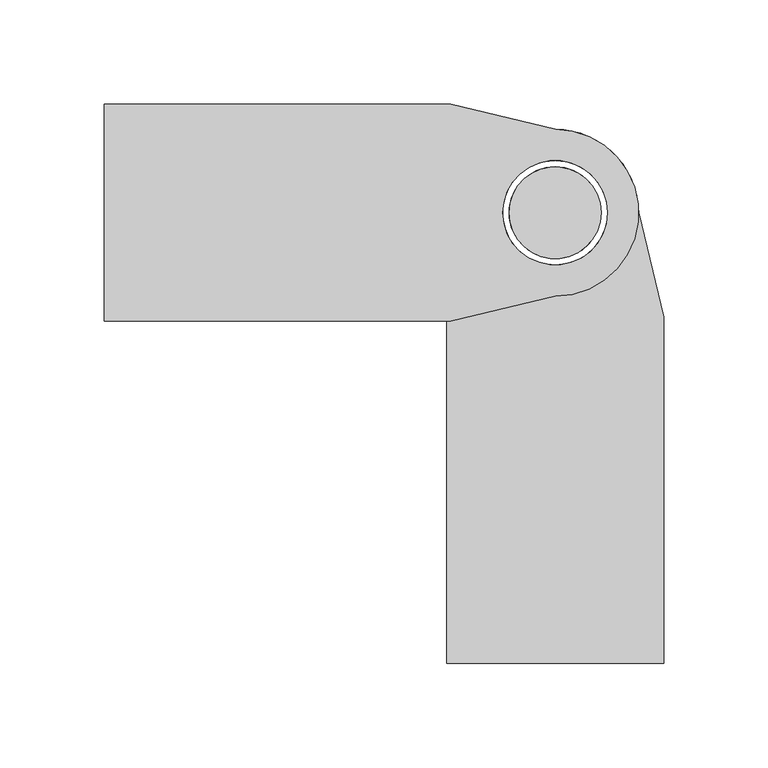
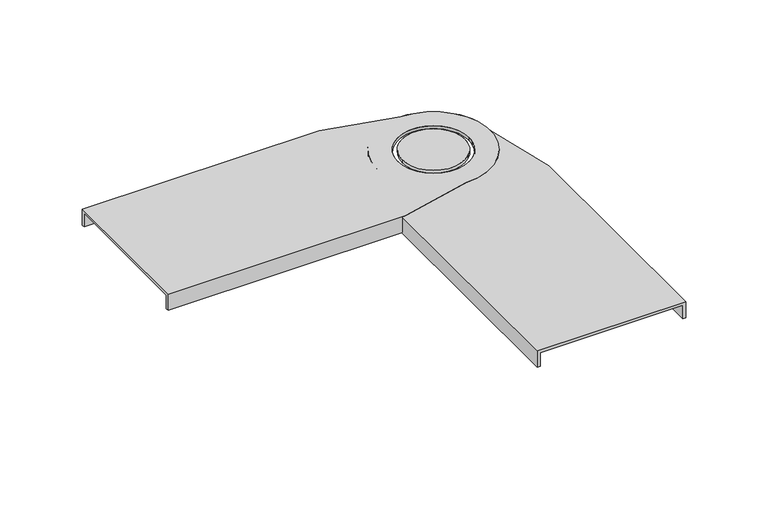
"""IFC4 building model written with IfcOpenShell, lengths in millimetres: cable carrier fitting geometry, BAKS_LDLS_BEND_Articulated connector_LGSU : LGSUC_H100."""

from ifc_helpers import new_model, si_unit, frame, origin, place, context, project, spatial, polyline, circle_curve, source, transform, mapped, element, save
from ifc_brep_helpers import plane_surface, cylinder_surface, revolved_surface, advanced_brep


def cable_carrier_fitting_3ae1bb04(model_context):
    return source(origin(), model_context, "Body", "AdvancedBrep", [
        advanced_brep(
        [(-216.0, -52.0, 2.0), (-50.0, -52.0, 2.0), (0.0, -40.0, 2.0), (0.0, 40.0, 2.0), (-50.0, 52.0, 2.0), (-216.0, 52.0, 2.0), (25.0, 0.0, 2.0), (-25.0, 0.0, 2.0), (-50.0, 52.0, 0.0), (0.0, 40.0, 0.0), (0.0, -40.0, 0.0), (-50.0, -52.0, 0.0), (-50.0, -50.0, 0.0), (-216.0, -50.0, 0.0), (-216.0, 50.0, 0.0), (-50.0, 50.0, 0.0), (-25.0, 0.0, 0.0), (25.0, 0.0, 0.0), (-216.0, -52.0, -10.0), (-50.0, -52.0, -10.0), (-50.0, 52.0, -10.0), (-216.0, 52.0, -10.0), (-216.0, 50.0, -10.0), (-216.0, -50.0, -10.0), (-50.0, 50.0, -10.0), (-50.0, -50.0, -10.0)],
        [
            (0, 1),
            (1, 2),
            (2, 3, circle_curve(frame((0.0, 0.0, 2.0), z_axis=(0.0, 0.0, 1.0), x_axis=(-1.0, 0.0, 0.0)), 40.0)),
            (3, 4),
            (4, 5),
            (5, 0),
            (6, 7, circle_curve(frame((0.0, 0.0, 2.0), z_axis=(0.0, 0.0, -1.0), x_axis=(-1.0, 0.0, 0.0)), 25.0)),
            (7, 6, circle_curve(frame((0.0, 0.0, 2.0), z_axis=(0.0, 0.0, -1.0), x_axis=(-1.0, 0.0, 0.0)), 25.0)),
            (8, 9),
            (9, 10, circle_curve(frame((0.0, 0.0, 0.0), z_axis=(0.0, 0.0, -1.0), x_axis=(-1.0, 0.0, 0.0)), 40.0)),
            (10, 11),
            (11, 12),
            (12, 13),
            (13, 14),
            (14, 15),
            (15, 8),
            (16, 17, circle_curve(frame((0.0, 0.0, 0.0), z_axis=(0.0, 0.0, 1.0), x_axis=(-1.0, 0.0, 0.0)), 25.0)),
            (17, 16, circle_curve(frame((0.0, 0.0, 0.0), z_axis=(0.0, 0.0, 1.0), x_axis=(-1.0, 0.0, 0.0)), 25.0)),
            (0, 18),
            (18, 19),
            (19, 11),
            (11, 1),
            (4, 8),
            (8, 20),
            (20, 21),
            (21, 5),
            (21, 22),
            (22, 14),
            (13, 23),
            (23, 18),
            (6, 17),
            (16, 7),
            (10, 2),
            (9, 3),
            (20, 24),
            (24, 22),
            (24, 15),
            (23, 25),
            (25, 19),
            (25, 12),
        ],
        [
            plane_surface(frame((-50.0, -52.0, 2.0), z_axis=(0.0, 0.0, 1.0), x_axis=(1.0, 0.0, 0.0))),
            plane_surface(frame((-50.0, -52.0, 0.0), z_axis=(0.0, 0.0, -1.0), x_axis=(-1.0, 0.0, 0.0))),
            plane_surface(frame((-216.0, -52.0, 2.0), z_axis=(0.0, -1.0, 0.0), x_axis=(0.0, 0.0, -1.0))),
            plane_surface(frame((-50.0, 52.0, 2.0), z_axis=(0.0, 1.0, 0.0), x_axis=(0.0, 0.0, -1.0))),
            plane_surface(frame((-216.0, 52.0, 2.0), z_axis=(-1.0, 0.0, 0.0), x_axis=(0.0, 0.0, -1.0))),
            revolved_surface(polyline([(-25.0, 0.0, 2.0), (-25.0, 0.0, 0.0)]), (0.0, 0.0, 0.0), (0.0, 0.0, 1.0)),
            plane_surface(frame((-50.0, -52.0, 2.0), z_axis=(0.23337295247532, -0.9723873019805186, 0.0), x_axis=(0.0, 0.0, -1.0))),
            cylinder_surface(frame((0.0, 0.0, 0.0), z_axis=(0.0, 0.0, 1.0), x_axis=(-1.0, 0.0, 0.0)), 40.0),
            plane_surface(frame((0.0, 40.0, 2.0), z_axis=(0.2333729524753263, 0.972387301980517, 0.0), x_axis=(0.0, 0.0, -1.0))),
            plane_surface(frame((-50.0, 50.0, -10.0), z_axis=(0.0, 0.0, -1.0), x_axis=(-1.0, 0.0, 0.0))),
            plane_surface(frame((-216.0, 50.0, 0.0), z_axis=(0.0, -1.0, 0.0), x_axis=(0.0, 0.0, -1.0))),
            plane_surface(frame((-50.0, 50.0, 0.0), z_axis=(1.0, 0.0, 0.0), x_axis=(0.0, 0.0, -1.0))),
            plane_surface(frame((-50.0, -52.0, -10.0), z_axis=(0.0, 0.0, -1.0), x_axis=(-1.0, 0.0, 0.0))),
            plane_surface(frame((-50.0, -52.0, 0.0), z_axis=(1.0, 0.0, 0.0), x_axis=(0.0, 0.0, -1.0))),
            plane_surface(frame((-50.0, -50.0, 0.0), z_axis=(0.0, 1.0, 0.0), x_axis=(0.0, 0.0, -1.0))),
        ],
        [
            (0, [[1, 2, 3, 4, 5, 6], [7, 8]]),
            (1, [[9, 10, 11, 12, 13, 14, 15, 16], [17, 18]]),
            (2, [[-1, 19, 20, 21, 22]]),
            (3, [[-5, 23, 24, 25, 26]]),
            (4, [[-19, -6, -26, 27, 28, -14, 29, 30]]),
            (5, [[31, -17, 32, -7]]),
            (5, [[-31, -8, -32, -18]]),
            (6, [[-2, -22, -11, 33]]),
            (7, [[-3, -33, -10, 34]]),
            (8, [[-4, -34, -9, -23]]),
            (9, [[-27, -25, 35, 36]]),
            (10, [[-36, 37, -15, -28]]),
            (11, [[-35, -24, -16, -37]]),
            (12, [[-30, 38, 39, -20]]),
            (13, [[-39, 40, -12, -21]]),
            (14, [[-38, -29, -13, -40]]),
        ],
    ),
        advanced_brep(
        [(22.0, 0.0, 2.0), (-22.0, 0.0, 2.0), (-22.0, 0.0, 0.0), (22.0, 0.0, 0.0)],
        [
            (0, 1, circle_curve(frame((0.0, 0.0, 2.0), z_axis=(0.0, 0.0, 1.0), x_axis=(-1.0, 0.0, 0.0)), 22.0)),
            (1, 0, circle_curve(frame((0.0, 0.0, 2.0), z_axis=(0.0, 0.0, 1.0), x_axis=(-1.0, 0.0, 0.0)), 22.0)),
            (2, 3, circle_curve(frame((0.0, 0.0, 0.0), z_axis=(0.0, 0.0, -1.0), x_axis=(-1.0, 0.0, 0.0)), 22.0)),
            (3, 2, circle_curve(frame((0.0, 0.0, 0.0), z_axis=(0.0, 0.0, -1.0), x_axis=(-1.0, 0.0, 0.0)), 22.0)),
            (0, 3),
            (2, 1),
        ],
        [
            plane_surface(frame((-50.0, -52.0, 2.0), z_axis=(0.0, 0.0, 1.0), x_axis=(1.0, 0.0, 0.0))),
            plane_surface(frame((-50.0, -52.0, 0.0), z_axis=(0.0, 0.0, -1.0), x_axis=(-1.0, 0.0, 0.0))),
            cylinder_surface(frame((0.0, 0.0, 0.0), z_axis=(0.0, 0.0, -1.0), x_axis=(-1.0, 0.0, 0.0)), 22.0),
        ],
        [
            (0, [[1, 2]]),
            (1, [[3, 4]]),
            (2, [[5, -3, 6, -1]]),
            (2, [[-5, -2, -6, -4]]),
        ],
    ),
        advanced_brep(
        [(-52.0, -216.0, 2.0), (52.0, -216.0, 2.0), (52.0, -50.0, 2.0), (40.0, 0.0, 2.0), (-40.0, 0.0, 2.0), (-52.0, -50.0, 2.0), (0.0, 25.0, 2.0), (0.0, -25.0, 2.0), (52.0, -50.0, 0.0), (50.0, -50.0, 0.0), (50.0, -216.0, 0.0), (-50.0, -216.0, 0.0), (-50.0, -50.0, 0.0), (-52.0, -50.0, 0.0), (-40.0, 0.0, 0.0), (40.0, 0.0, 0.0), (0.0, -25.0, 0.0), (0.0, 25.0, 0.0), (-52.0, -50.0, -10.0), (-52.0, -216.0, -10.0), (52.0, -216.0, -10.0), (52.0, -50.0, -10.0), (-50.0, -216.0, -10.0), (50.0, -216.0, -10.0), (50.0, -50.0, -10.0), (-50.0, -50.0, -10.0)],
        [
            (0, 1),
            (1, 2),
            (2, 3),
            (3, 4, circle_curve(frame((0.0, 0.0, 2.0), z_axis=(0.0, 0.0, 1.0), x_axis=(0.0, -1.0, 0.0)), 40.0)),
            (4, 5),
            (5, 0),
            (6, 7, circle_curve(frame((0.0, 0.0, 2.0), z_axis=(0.0, 0.0, -1.0), x_axis=(0.0, -1.0, 0.0)), 25.0)),
            (7, 6, circle_curve(frame((0.0, 0.0, 2.0), z_axis=(0.0, 0.0, -1.0), x_axis=(0.0, -1.0, 0.0)), 25.0)),
            (8, 9),
            (9, 10),
            (10, 11),
            (11, 12),
            (12, 13),
            (13, 14),
            (14, 15, circle_curve(frame((0.0, 0.0, 0.0), z_axis=(0.0, 0.0, -1.0), x_axis=(0.0, -1.0, 0.0)), 40.0)),
            (15, 8),
            (16, 17, circle_curve(frame((0.0, 0.0, 0.0), z_axis=(0.0, 0.0, 1.0), x_axis=(0.0, -1.0, 0.0)), 25.0)),
            (17, 16, circle_curve(frame((0.0, 0.0, 0.0), z_axis=(0.0, 0.0, 1.0), x_axis=(0.0, -1.0, 0.0)), 25.0)),
            (5, 13),
            (13, 18),
            (18, 19),
            (19, 0),
            (1, 20),
            (20, 21),
            (21, 8),
            (8, 2),
            (19, 22),
            (22, 11),
            (10, 23),
            (23, 20),
            (7, 16),
            (17, 6),
            (4, 14),
            (3, 15),
            (23, 24),
            (24, 21),
            (9, 24),
            (18, 25),
            (25, 22),
            (12, 25),
        ],
        [
            plane_surface(frame((-52.0, -50.0, 2.0), z_axis=(0.0, 0.0, 1.0), x_axis=(0.0, 1.0, 0.0))),
            plane_surface(frame((-52.0, -50.0, 0.0), z_axis=(0.0, 0.0, -1.0), x_axis=(0.0, -1.0, 0.0))),
            plane_surface(frame((-52.0, -216.0, 2.0), z_axis=(-1.0, 0.0, 0.0), x_axis=(0.0, 0.0, -1.0))),
            plane_surface(frame((52.0, -50.0, 2.0), z_axis=(1.0, 0.0, 0.0), x_axis=(0.0, 0.0, -1.0))),
            plane_surface(frame((52.0, -216.0, 2.0), z_axis=(0.0, -1.0, 0.0), x_axis=(0.0, 0.0, -1.0))),
            revolved_surface(polyline([(0.0, -25.0, 2.0), (0.0, -25.0, 0.0)]), (0.0, 0.0, 0.0), (0.0, 0.0, 1.0)),
            plane_surface(frame((-52.0, -50.0, 2.0), z_axis=(-0.9723873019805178, 0.23337295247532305, 0.0), x_axis=(0.0, 0.0, -1.0))),
            cylinder_surface(frame((0.0, 0.0, 0.0), z_axis=(0.0, 0.0, 1.0), x_axis=(0.0, -1.0, 0.0)), 40.0),
            plane_surface(frame((40.0, 0.0, 2.0), z_axis=(0.9723873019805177, 0.23337295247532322, 0.0), x_axis=(0.0, 0.0, -1.0))),
            plane_surface(frame((50.0, -50.0, -10.0), z_axis=(0.0, 0.0, -1.0), x_axis=(0.0, -1.0, 0.0))),
            plane_surface(frame((50.0, -216.0, 0.0), z_axis=(-1.0, 0.0, 0.0), x_axis=(0.0, 0.0, -1.0))),
            plane_surface(frame((50.0, -50.0, 0.0), z_axis=(0.0, 1.0, 0.0), x_axis=(0.0, 0.0, -1.0))),
            plane_surface(frame((-52.0, -50.0, -10.0), z_axis=(0.0, 0.0, -1.0), x_axis=(0.0, -1.0, 0.0))),
            plane_surface(frame((-52.0, -50.0, 0.0), z_axis=(0.0, 1.0, 0.0), x_axis=(0.0, 0.0, -1.0))),
            plane_surface(frame((-50.0, -50.0, 0.0), z_axis=(1.0, 0.0, 0.0), x_axis=(0.0, 0.0, -1.0))),
        ],
        [
            (0, [[1, 2, 3, 4, 5, 6], [7, 8]]),
            (1, [[9, 10, 11, 12, 13, 14, 15, 16], [17, 18]]),
            (2, [[19, 20, 21, 22, -6]]),
            (3, [[23, 24, 25, 26, -2]]),
            (4, [[27, 28, -11, 29, 30, -23, -1, -22]]),
            (5, [[-8, 31, -18, 32]]),
            (5, [[-17, -31, -7, -32]]),
            (6, [[33, -14, -19, -5]]),
            (7, [[34, -15, -33, -4]]),
            (8, [[-26, -16, -34, -3]]),
            (9, [[35, 36, -24, -30]]),
            (10, [[-29, -10, 37, -35]]),
            (11, [[-37, -9, -25, -36]]),
            (12, [[-21, 38, 39, -27]]),
            (13, [[-20, -13, 40, -38]]),
            (14, [[-40, -12, -28, -39]]),
        ],
    ),
        advanced_brep(
        [(0.0, 22.0, 2.0), (0.0, -22.0, 2.0), (0.0, -22.0, 0.0), (0.0, 22.0, 0.0)],
        [
            (0, 1, circle_curve(frame((0.0, 0.0, 2.0), z_axis=(0.0, 0.0, 1.0), x_axis=(0.0, -1.0, 0.0)), 22.0)),
            (1, 0, circle_curve(frame((0.0, 0.0, 2.0), z_axis=(0.0, 0.0, 1.0), x_axis=(0.0, -1.0, 0.0)), 22.0)),
            (2, 3, circle_curve(frame((0.0, 0.0, 0.0), z_axis=(0.0, 0.0, -1.0), x_axis=(0.0, -1.0, 0.0)), 22.0)),
            (3, 2, circle_curve(frame((0.0, 0.0, 0.0), z_axis=(0.0, 0.0, -1.0), x_axis=(0.0, -1.0, 0.0)), 22.0)),
            (1, 2),
            (3, 0),
        ],
        [
            plane_surface(frame((-52.0, -50.0, 2.0), z_axis=(0.0, 0.0, 1.0), x_axis=(0.0, 1.0, 0.0))),
            plane_surface(frame((-52.0, -50.0, 0.0), z_axis=(0.0, 0.0, -1.0), x_axis=(0.0, -1.0, 0.0))),
            cylinder_surface(frame((0.0, 0.0, 0.0), z_axis=(0.0, 0.0, -1.0), x_axis=(0.0, -1.0, 0.0)), 22.0),
        ],
        [
            (0, [[1, 2]]),
            (1, [[3, 4]]),
            (2, [[-2, 5, -4, 6]]),
            (2, [[-3, -5, -1, -6]]),
        ],
    ),
    ])


if __name__ == "__main__":
    model = new_model("IFC4")
    model_context = context("Model", 3, world=origin())
    ifc_project = project(units=[si_unit("LENGTHUNIT", "METRE", prefix="MILLI")], contexts=[model_context])
    site = spatial("IfcSite", under=ifc_project)
    building = spatial("IfcBuilding", under=site)
    placement = place(None, origin())
    cable_carrier_fitting_shape = cable_carrier_fitting_3ae1bb04(model_context)
    element("IfcCableCarrierFitting", 1, ObjectType="BAKS_LDLS_BEND_Articulated connector_LGSU : LGSUC_H100", at=placement, inside=building, context=model_context, shape_type="MappedRepresentation", body=[
        mapped(cable_carrier_fitting_shape, transform((0.0, 0.0, 0.0), x_axis=(1.0, 0.0, 0.0), y_axis=(0.0, 1.0, 0.0), z_axis=(0.0, 0.0, 1.0))),
    ])
    save(model, "model.ifc")
